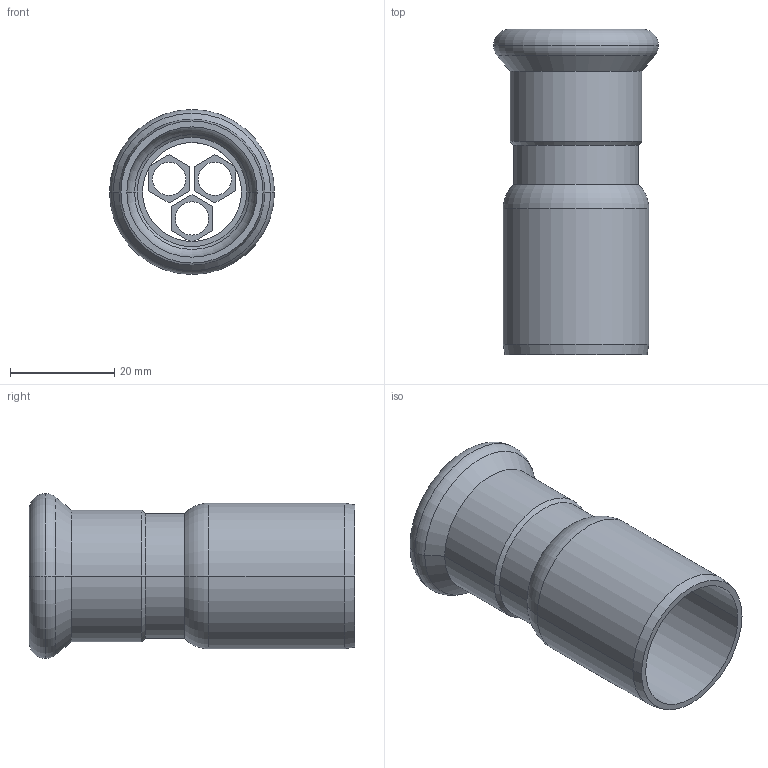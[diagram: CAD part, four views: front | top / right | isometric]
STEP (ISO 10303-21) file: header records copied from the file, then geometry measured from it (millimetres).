
FILE_DESCRIPTION(('OneSpaceDesigner STEP Export'),'2;1');
FILE_NAME('R2707 22x28.stp','2010-06-09T13:09:48',(''),(''),'OneSpace Designer STEP processor for AP214 (Solid Model)','OneSpace Modeling 15.00A 14-Mar-2007 (C) CoCreate Software GmbH','');
FILE_SCHEMA(('AUTOMOTIVE_DESIGN { 1 0 10303 214 1 1 1 1 }'));
Length unit declared in the file: millimetre
Products named in the file (2): R2707_22x28
Assembly tree (1 placements, depth 2):
  R2707_22x28
    R2707_22x28
Bounding box: 31.7 x 62.5 x 31.7 mm (x, y, z)
Volume: 9294.1 mm3; surface area: 11109 mm2
Topology: 1 solids, 1 shells, 75 faces, 178 edges, 111 vertices
Faces by surface type: plane 32, cylinder 25, cone 10, torus 8
Entity records: 1911 total; most frequent: ORIENTED_EDGE 356, CARTESIAN_POINT 303, DIRECTION 283, EDGE_CURVE 178, VERTEX_POINT 111, VECTOR 101, LINE 101, AXIS2_PLACEMENT_3D 91
